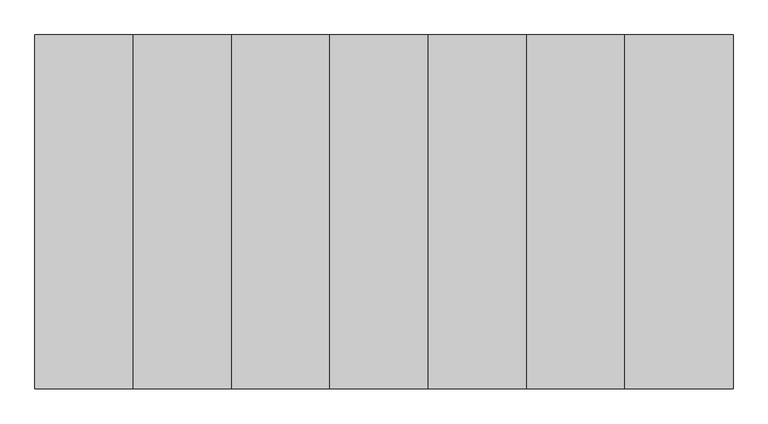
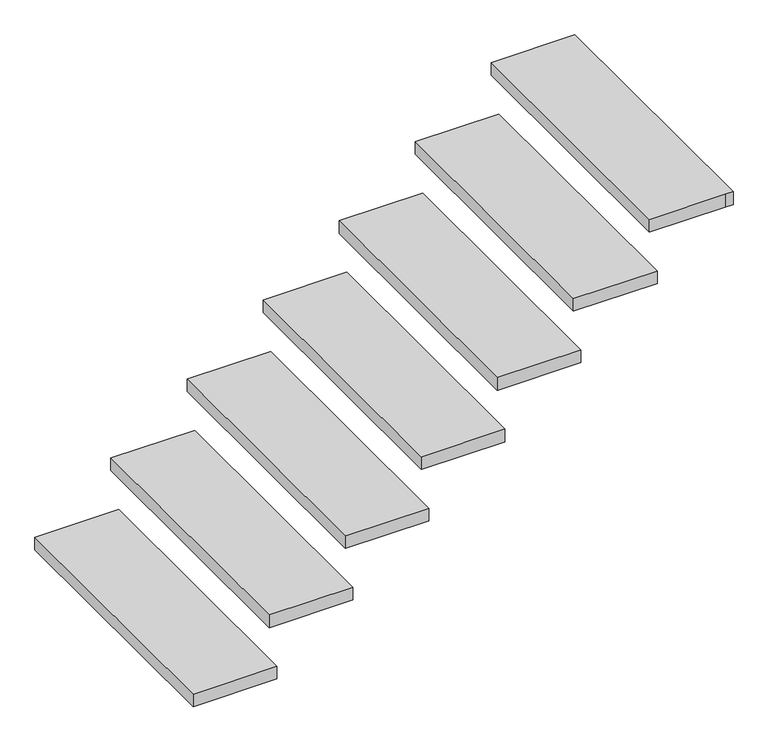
"""IFC4 building model written with IfcOpenShell, lengths in millimetres: stair flight geometry."""

from ifc_helpers import new_model, si_unit, frame, origin, place, context, project, spatial, polyline, outline, extrude, source, transform, mapped, element, save


def stair_flight_2204dae2(model_context):
    return source(origin(), model_context, "Body", "SweptSolid", [
        extrude(outline(polyline([(-17502.6481446, -4273.6871906), (-17502.6481446, -5188.0871906), (-17782.0481446, -5188.0871906), (-17782.0481446, -4273.6871906), (-17502.6481446, -4273.6871906)])), frame((0.0, 0.0, 146.05), z_axis=(0.0, 0.0, 1.0), x_axis=(1.0, 0.0, 0.0)), (0.0, 0.0, 1.0), 44.45),
        extrude(outline(polyline([(-15978.6481446, -4273.6871906), (-15978.6481446, -5188.0871906), (-16004.0481446, -5188.0871906), (-16258.0481446, -5188.0871906), (-16258.0481446, -4273.6871906), (-15978.6481446, -4273.6871906)])), frame((0.0, 0.0, 1289.05), z_axis=(0.0, 0.0, 1.0), x_axis=(1.0, 0.0, 0.0)), (0.0, 0.0, 1.0), 44.45),
        extrude(outline(polyline([(-17248.6481446, -4273.6871906), (-17248.6481446, -5188.0871906), (-17528.0481446, -5188.0871906), (-17528.0481446, -4273.6871906), (-17248.6481446, -4273.6871906)])), frame((0.0, 0.0, 336.55), z_axis=(0.0, 0.0, 1.0), x_axis=(1.0, 0.0, 0.0)), (0.0, 0.0, 1.0), 44.45),
        extrude(outline(polyline([(-16994.6481446, -4273.6871906), (-16994.6481446, -5188.0871906), (-17274.0481446, -5188.0871906), (-17274.0481446, -4273.6871906), (-16994.6481446, -4273.6871906)])), frame((0.0, 0.0, 527.05), z_axis=(0.0, 0.0, 1.0), x_axis=(1.0, 0.0, 0.0)), (0.0, 0.0, 1.0), 44.45),
        extrude(outline(polyline([(-16740.6481446, -4273.6871906), (-16740.6481446, -5188.0871906), (-17020.0481446, -5188.0871906), (-17020.0481446, -4273.6871906), (-16740.6481446, -4273.6871906)])), frame((0.0, 0.0, 717.55), z_axis=(0.0, 0.0, 1.0), x_axis=(1.0, 0.0, 0.0)), (0.0, 0.0, 1.0), 44.45),
        extrude(outline(polyline([(-16486.6481446, -4273.6871906), (-16486.6481446, -5188.0871906), (-16766.0481446, -5188.0871906), (-16766.0481446, -4273.6871906), (-16486.6481446, -4273.6871906)])), frame((0.0, 0.0, 908.05), z_axis=(0.0, 0.0, 1.0), x_axis=(1.0, 0.0, 0.0)), (0.0, 0.0, 1.0), 44.45),
        extrude(outline(polyline([(-16232.6481446, -4273.6871906), (-16232.6481446, -5188.0871906), (-16512.0481446, -5188.0871906), (-16512.0481446, -4273.6871906), (-16232.6481446, -4273.6871906)])), frame((0.0, 0.0, 1098.55), z_axis=(0.0, 0.0, 1.0), x_axis=(1.0, 0.0, 0.0)), (0.0, 0.0, 1.0), 44.45),
    ])


if __name__ == "__main__":
    model = new_model("IFC4")
    model_context = context("Model", 3, world=origin())
    ifc_project = project(units=[si_unit("LENGTHUNIT", "METRE", prefix="MILLI")], contexts=[model_context])
    site = spatial("IfcSite", under=ifc_project)
    building = spatial("IfcBuilding", under=site)
    placement = place(None, origin())
    stair_flight_shape = stair_flight_2204dae2(model_context)
    element("IfcStairFlight", 1, ObjectType="Unassigned Steps with 1 3/4\" Tread 1\" Nosing", at=placement, inside=building, context=model_context, shape_type="MappedRepresentation", body=[
        mapped(stair_flight_shape, transform((0.0, 0.0, 0.0), x_axis=(1.0, 0.0, 0.0), y_axis=(0.0, 1.0, 0.0), z_axis=(0.0, 0.0, 1.0))),
    ])
    save(model, "model.ifc")
